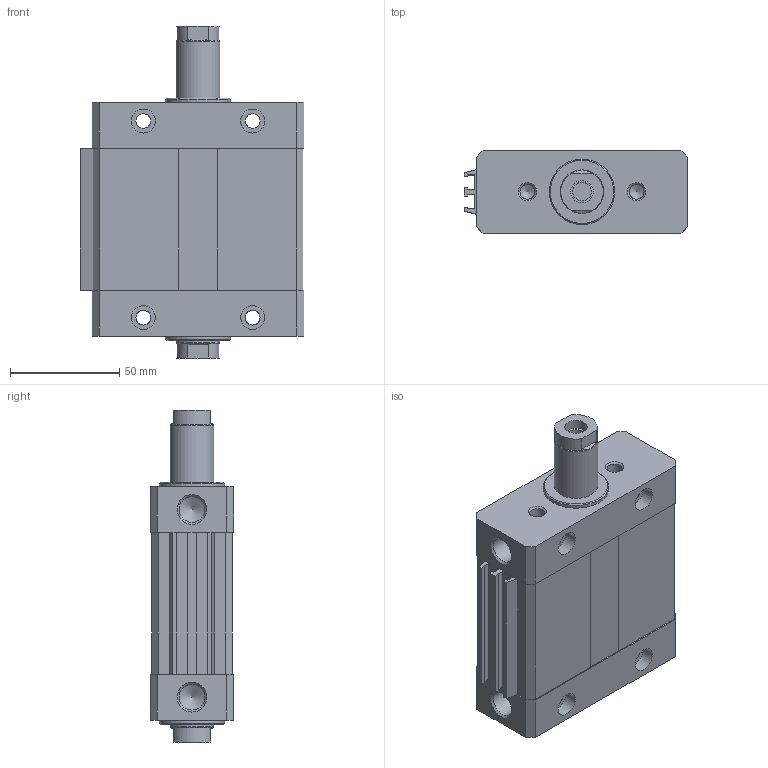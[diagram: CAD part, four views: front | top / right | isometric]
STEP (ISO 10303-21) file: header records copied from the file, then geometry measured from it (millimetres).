
FILE_DESCRIPTION((''),'2;1');
FILE_NAME('I:\Area Tecnica\Disegni\VARIE-3D\Componenti\1370 - CPO\1370_##_0000_03\1370_50_0025_03-01.iam.step','2010-12-16T10:57:56',(''),(''),'Autodesk Inventor 2011','Autodesk Inventor 2011','');
FILE_SCHEMA(('AUTOMOTIVE_DESIGN { 1 0 10303 214 1 1 1 1 }'));
Length unit declared in the file: millimetre
Products named in the file (5): 1370_50_0025_03-01; 1370_05_50_0000; 1370_06_50_0025; 1370_08_50_0000; 1370_3_50_0025
Assembly tree (4 placements, depth 2):
  1370_50_0025_03-01
    1370_05_50_0000
    1370_06_50_0025
    1370_08_50_0000
    1370_3_50_0025
Bounding box: 102.5 x 38 x 152 mm (x, y, z)
Volume: 343852.7 mm3; surface area: 91368.6 mm2
Topology: 4 solids, 4 shells, 164 faces, 398 edges, 252 vertices
Faces by surface type: plane 94, cylinder 50, cone 20
Full cylindrical faces by diameter (mm): 6.8 x18, 8.5 x2, 10.3 x2, 11 x8, 11.75 x2, 20 x4, 30 x2
Entity records: 4722 total; most frequent: DIRECTION 794, CARTESIAN_POINT 737, ORIENTED_EDGE 652, EDGE_CURVE 326, AXIS2_PLACEMENT_3D 295, EDGE_LOOP 254, VERTEX_POINT 238, VECTOR 204
